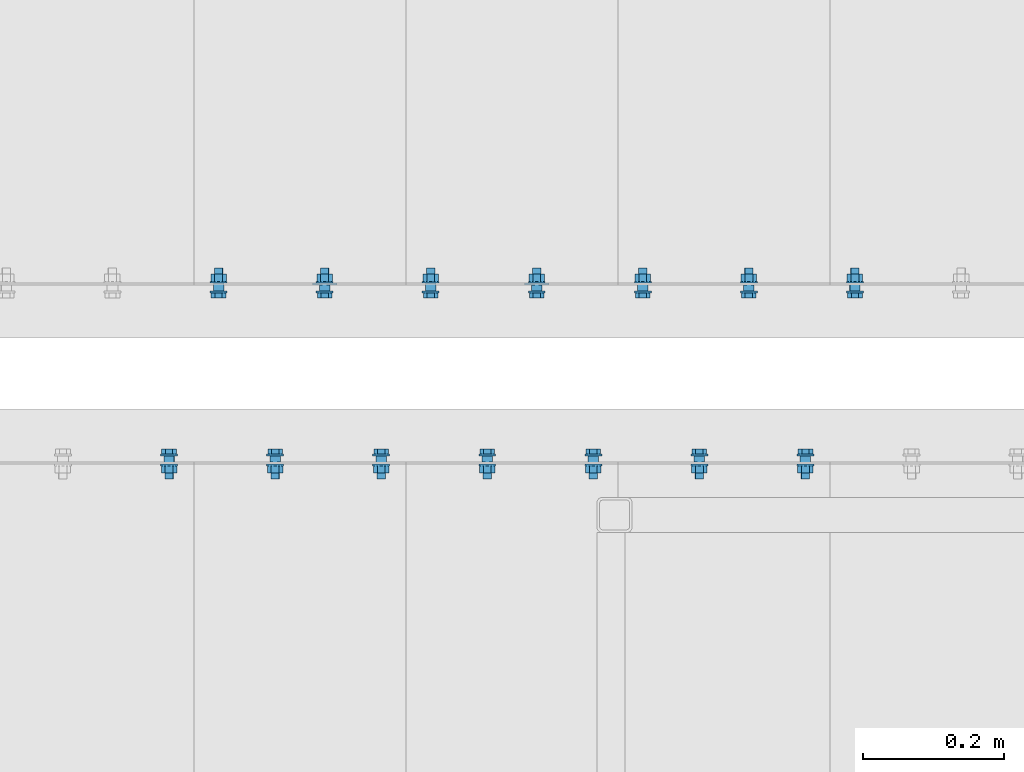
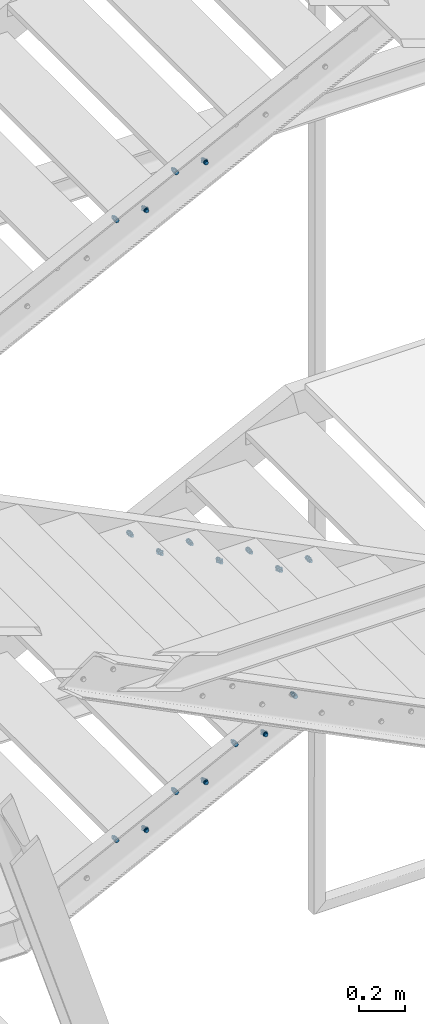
# One storey, part 106 of 132: 18 mechanical fasteners, 10 elements without a shape of their own.
"""IFC2X3 building model written with IfcOpenShell, lengths in millimetres."""

from ifc_helpers import new_model, si_unit, frame, frame_2d, origin_with_axes, origin_2d_with_axis, place, context, subcontext, project, spatial, polyline, circle_curve, parameter, trimmed, segment, composite_curve, circle, outline, extrude, source, transform, mapped, material, type_object, element, aggregate, save


model = new_model("IFC2X3")

# Units and contexts
model_context = context("Model", 3, precision=1e-05, world=origin_with_axes())
body_context = subcontext(model_context, "Body", "Model", "MODEL_VIEW")
ifc_project = project(units=[si_unit("LENGTHUNIT", "METRE", prefix="MILLI"), si_unit("AREAUNIT", "SQUARE_METRE"), si_unit("VOLUMEUNIT", "CUBIC_METRE"), si_unit("MASSUNIT", "GRAM", prefix="KILO"), si_unit("TIMEUNIT", "SECOND"), si_unit("PLANEANGLEUNIT", "RADIAN"), si_unit("SOLIDANGLEUNIT", "STERADIAN"), si_unit("THERMODYNAMICTEMPERATUREUNIT", "DEGREE_CELSIUS"), si_unit("LUMINOUSINTENSITYUNIT", "LUMEN")], contexts=[model_context])

# Site, building, storey
site_placement = place(None, origin_with_axes())
site = spatial("IfcSite", under=ifc_project, at=site_placement, Name="Budowa", CompositionType="ELEMENT")
building_placement = place(site_placement, origin_with_axes())
building = spatial("IfcBuilding", under=site, at=building_placement, Name="Undefined", CompositionType="ELEMENT")
storey_placement = place(building_placement, origin_with_axes())
storey = spatial("IfcBuildingStorey", under=building, at=storey_placement, Name="Undefined", CompositionType="ELEMENT", Elevation=0.0)

# Assembly, mechanical fastener
assembly_1_placement = place(storey_placement, origin_with_axes())
assembly_1 = element("IfcElementAssembly", 1, at=assembly_1_placement, inside=storey, Name="Steel Assembly", AssemblyPlace="NOTDEFINED", PredefinedType="RIGID_FRAME")
ifc_material = material(Name="Undefined")
discrete_accessory_type = type_object("IfcDiscreteAccessoryType", Name="Bolt assembly")
shared_shape_1 = source(origin_with_axes(), body_context, "Body", "SweptSolid", [
    extrude(circle(Radius=7.5, at=origin_2d_with_axis()), frame((0.0, -8.40000000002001, 0.0), z_axis=(0.0, 1.0, 0.0), x_axis=(1.0, 0.0, 0.0)), (0.0, 0.0, 1.0), 8.5),
    extrude(circle(Radius=7.5, at=origin_2d_with_axis()), frame((0.0, -0.1, 0.0), z_axis=(0.0, 1.0, 0.0), x_axis=(1.0, 0.0, 0.0)), (0.0, 0.0, 1.0), 3.1),
    extrude(outline(polyline([(10.39230484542, 0.0), (5.19615242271, 9.00000000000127), (-5.19615242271, 9.00000000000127), (-10.39230484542, 0.0), (-5.19615242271, -9.00000000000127), (5.19615242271, -9.00000000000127), (10.39230484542, 0.0)])), frame((0.0, -18.50000000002, 0.0), z_axis=(0.0, 1.0, 0.0), x_axis=(1.0, 0.0, 0.0)), (0.0, 0.0, 1.0), 7.5),
    extrude(circle(Radius=6.0, at=origin_2d_with_axis()), frame((0.0, -11.00000000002, 0.0), z_axis=(0.0, 1.0, 0.0), x_axis=(1.0, 0.0, 0.0)), (0.0, 0.0, 1.0), 35.0),
    extrude(circle(Radius=12.0, at=origin_2d_with_axis()), frame((0.0, -11.00000000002, 0.0), z_axis=(0.0, 1.0, 0.0), x_axis=(1.0, 0.0, 0.0)), (0.0, 0.0, 1.0), 2.5),
    extrude(circle(Radius=12.0, at=origin_2d_with_axis()), frame((0.0, 3.0, 0.0), z_axis=(0.0, 1.0, 0.0), x_axis=(1.0, 0.0, 0.0)), (0.0, 0.0, 1.0), 2.5),
    extrude(outline(polyline([(10.96965511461, 0.0), (5.484827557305, 9.50000000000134), (-5.484827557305, 9.50000000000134), (-10.96965511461, 0.0), (-5.484827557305, -9.50000000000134), (5.484827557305, -9.50000000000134), (10.96965511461, 0.0)])), frame((0.0, 5.5, 0.0), z_axis=(0.0, 1.0, 0.0), x_axis=(1.0, 0.0, 0.0)), (0.0, 0.0, 1.0), 10.0),
])
mechanical_fastener_1_placement = place(assembly_1_placement, frame((-2020.00000008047, 9525.0000000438, 6649.99999999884), z_axis=(0.0, 0.0, -1.0), x_axis=(-1.0, 0.0, 0.0)))
mechanical_fastener_1 = element("IfcMechanicalFastener", 2, at=mechanical_fastener_1_placement, type_object=discrete_accessory_type, material=ifc_material, Name="Bolt assembly", NominalDiameter=12.0, NominalLength=35.0, context=body_context, shape_type="MappedRepresentation", body=[
    mapped(shared_shape_1, transform((265.0, 0.0, 25.0))),
])

assembly_2_placement = place(storey_placement, origin_with_axes())
assembly_2 = element("IfcElementAssembly", 3, at=assembly_2_placement, inside=storey, Name="Steel Assembly", AssemblyPlace="NOTDEFINED", PredefinedType="RIGID_FRAME")
mechanical_fastener_2_placement = place(assembly_2_placement, frame((-2320.00000008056, 9525.0000000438, 6499.99999999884), z_axis=(0.0, 0.0, -1.0), x_axis=(-1.0, 0.0, 0.0)))
mechanical_fastener_2 = element("IfcMechanicalFastener", 4, at=mechanical_fastener_2_placement, type_object=discrete_accessory_type, material=ifc_material, Name="Bolt assembly", NominalDiameter=12.0, NominalLength=35.0, context=body_context, shape_type="MappedRepresentation", body=[
    mapped(shared_shape_1, transform((265.0, 0.0, 25.0))),
])

assembly_3_placement = place(storey_placement, origin_with_axes())
assembly_3 = element("IfcElementAssembly", 5, at=assembly_3_placement, inside=storey, Name="Steel Assembly", AssemblyPlace="NOTDEFINED", PredefinedType="RIGID_FRAME")
mechanical_fastener_3_placement = place(assembly_3_placement, frame((-2920.00000007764, 9275.00000004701, 4999.99999999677), z_axis=(0.0, 0.0, -1.0), x_axis=(1.0, 0.0, 0.0)))
mechanical_fastener_3 = element("IfcMechanicalFastener", 6, at=mechanical_fastener_3_placement, type_object=discrete_accessory_type, material=ifc_material, Name="Bolt assembly", NominalDiameter=12.0, NominalLength=35.0, context=body_context, shape_type="MappedRepresentation", body=[
    mapped(shared_shape_1, transform((265.0, 0.0, 25.0))),
])
aggregate(assembly_3, [mechanical_fastener_3])

assembly_4_placement = place(storey_placement, origin_with_axes())
assembly_4 = element("IfcElementAssembly", 7, at=assembly_4_placement, inside=storey, Name="Steel Assembly", AssemblyPlace="NOTDEFINED", PredefinedType="RIGID_FRAME")
mechanical_fastener_4_placement = place(assembly_4_placement, frame((-2620.00000007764, 9275.00000004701, 4849.99999999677), z_axis=(0.0, 0.0, -1.0), x_axis=(1.0, 0.0, 0.0)))
mechanical_fastener_4 = element("IfcMechanicalFastener", 8, at=mechanical_fastener_4_placement, type_object=discrete_accessory_type, material=ifc_material, Name="Bolt assembly", NominalDiameter=12.0, NominalLength=35.0, context=body_context, shape_type="MappedRepresentation", body=[
    mapped(shared_shape_1, transform((265.0, 0.0, 25.0))),
])

assembly_5_placement = place(storey_placement, origin_with_axes())
assembly_5 = element("IfcElementAssembly", 9, at=assembly_5_placement, inside=storey, Name="Steel Assembly", AssemblyPlace="NOTDEFINED", PredefinedType="RIGID_FRAME")
mechanical_fastener_5_placement = place(assembly_5_placement, frame((-2320.00000007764, 9275.00000004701, 4699.99999999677), z_axis=(0.0, 0.0, -1.0), x_axis=(1.0, 0.0, 0.0)))
mechanical_fastener_5 = element("IfcMechanicalFastener", 10, at=mechanical_fastener_5_placement, type_object=discrete_accessory_type, material=ifc_material, Name="Bolt assembly", NominalDiameter=12.0, NominalLength=35.0, context=body_context, shape_type="MappedRepresentation", body=[
    mapped(shared_shape_1, transform((265.0, 0.0, 25.0))),
])

assembly_6_placement = place(storey_placement, origin_with_axes())
assembly_6 = element("IfcElementAssembly", 11, at=assembly_6_placement, inside=storey, Name="Steel Assembly", AssemblyPlace="NOTDEFINED", PredefinedType="RIGID_FRAME")
mechanical_fastener_6_placement = place(assembly_6_placement, frame((-2020.00000007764, 9275.00000004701, 4549.99999999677), z_axis=(0.0, 0.0, -1.0), x_axis=(1.0, 0.0, 0.0)))
mechanical_fastener_6 = element("IfcMechanicalFastener", 12, at=mechanical_fastener_6_placement, type_object=discrete_accessory_type, material=ifc_material, Name="Bolt assembly", NominalDiameter=12.0, NominalLength=35.0, context=body_context, shape_type="MappedRepresentation", body=[
    mapped(shared_shape_1, transform((265.0, 0.0, 25.0))),
])

assembly_7_placement = place(storey_placement, origin_with_axes())
assembly_7 = element("IfcElementAssembly", 13, at=assembly_7_placement, inside=storey, Name="Steel Assembly", AssemblyPlace="NOTDEFINED", PredefinedType="RIGID_FRAME")
mechanical_fastener_7_placement = place(assembly_7_placement, frame((-1420.00000008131, 9525.00000004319, 3649.99999999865), z_axis=(0.0, 0.0, -1.0), x_axis=(-1.0, 0.0, 0.0)))
mechanical_fastener_7 = element("IfcMechanicalFastener", 14, at=mechanical_fastener_7_placement, type_object=discrete_accessory_type, material=ifc_material, Name="Bolt assembly", NominalDiameter=12.0, NominalLength=35.0, context=body_context, shape_type="MappedRepresentation", body=[
    mapped(shared_shape_1, transform((265.0, 0.0, 25.0))),
])
aggregate(assembly_7, [mechanical_fastener_7])

assembly_8_placement = place(storey_placement, origin_with_axes())
assembly_8 = element("IfcElementAssembly", 15, at=assembly_8_placement, inside=storey, Name="Steel Assembly", AssemblyPlace="NOTDEFINED", PredefinedType="RIGID_FRAME")
mechanical_fastener_8_placement = place(assembly_8_placement, frame((-1720.00000008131, 9525.0000000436, 3499.99999999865), z_axis=(0.0, 0.0, -1.0), x_axis=(-1.0, 0.0, 0.0)))
mechanical_fastener_8 = element("IfcMechanicalFastener", 16, at=mechanical_fastener_8_placement, type_object=discrete_accessory_type, material=ifc_material, Name="Bolt assembly", NominalDiameter=12.0, NominalLength=35.0, context=body_context, shape_type="MappedRepresentation", body=[
    mapped(shared_shape_1, transform((265.0, 0.0, 25.0))),
])

assembly_9_placement = place(storey_placement, origin_with_axes())
assembly_9 = element("IfcElementAssembly", 17, at=assembly_9_placement, inside=storey, Name="Steel Assembly", AssemblyPlace="NOTDEFINED", PredefinedType="RIGID_FRAME")
mechanical_fastener_9_placement = place(assembly_9_placement, frame((-2020.00000008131, 9525.00000004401, 3349.99999999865), z_axis=(0.0, 0.0, -1.0), x_axis=(-1.0, 0.0, 0.0)))
mechanical_fastener_9 = element("IfcMechanicalFastener", 18, at=mechanical_fastener_9_placement, type_object=discrete_accessory_type, material=ifc_material, Name="Bolt assembly", NominalDiameter=12.0, NominalLength=35.0, context=body_context, shape_type="MappedRepresentation", body=[
    mapped(shared_shape_1, transform((265.0, 0.0, 25.0))),
])

assembly_10_placement = place(storey_placement, origin_with_axes())
assembly_10 = element("IfcElementAssembly", 19, at=assembly_10_placement, inside=storey, Name="Steel Assembly", AssemblyPlace="NOTDEFINED", PredefinedType="RIGID_FRAME")
mechanical_fastener_10_placement = place(assembly_10_placement, frame((-2320.00000008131, 9525.00000004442, 3199.99999999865), z_axis=(0.0, 0.0, -1.0), x_axis=(-1.0, 0.0, 0.0)))
mechanical_fastener_10 = element("IfcMechanicalFastener", 20, at=mechanical_fastener_10_placement, type_object=discrete_accessory_type, material=ifc_material, Name="Bolt assembly", NominalDiameter=12.0, NominalLength=35.0, context=body_context, shape_type="MappedRepresentation", body=[
    mapped(shared_shape_1, transform((265.0, 0.0, 25.0))),
])

# Mechanical fastener
shared_shape_2 = source(origin_with_axes(), body_context, "Body", "SweptSolid", [
    extrude(circle(Radius=7.5, at=origin_2d_with_axis()), frame((0.0, -8.40000000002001, 0.0), z_axis=(0.0, 1.0, 0.0), x_axis=(1.0, 0.0, 0.0)), (0.0, 0.0, 1.0), 8.5),
    extrude(outline(composite_curve([segment(polyline([(-10.0, 7.5), (10.0, 7.5)]), True, "CONTINUOUS"), segment(trimmed(circle_curve(frame_2d((10.0, 0.0), x_axis=(0.0, 1.0)), 7.5), [parameter(0.0)], [parameter(3.14159265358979)], False, "PARAMETER"), True, "CONTINUOUS"), segment(polyline([(10.0, -7.5), (-10.0, -7.5)]), True, "CONTINUOUS"), segment(trimmed(circle_curve(frame_2d((-10.0, 0.0), x_axis=(0.0, -1.0)), 7.5), [parameter(0.0)], [parameter(3.14159265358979)], False, "PARAMETER"), True, "DISCONTINUOUS")], self_intersect=False)), frame((0.0, -0.1, 0.0), z_axis=(0.0, 1.0, 0.0), x_axis=(1.0, 0.0, 0.0)), (0.0, 0.0, 1.0), 3.1),
    extrude(outline(polyline([(10.39230484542, 0.0), (5.19615242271, 9.00000000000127), (-5.19615242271, 9.00000000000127), (-10.39230484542, 0.0), (-5.19615242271, -9.00000000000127), (5.19615242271, -9.00000000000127), (10.39230484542, 0.0)])), frame((0.0, -18.50000000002, 0.0), z_axis=(0.0, 1.0, 0.0), x_axis=(1.0, 0.0, 0.0)), (0.0, 0.0, 1.0), 7.5),
    extrude(circle(Radius=6.0, at=origin_2d_with_axis()), frame((0.0, -11.00000000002, 0.0), z_axis=(0.0, 1.0, 0.0), x_axis=(1.0, 0.0, 0.0)), (0.0, 0.0, 1.0), 35.0),
    extrude(circle(Radius=12.0, at=origin_2d_with_axis()), frame((0.0, -11.00000000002, 0.0), z_axis=(0.0, 1.0, 0.0), x_axis=(1.0, 0.0, 0.0)), (0.0, 0.0, 1.0), 2.5),
    extrude(circle(Radius=12.0, at=origin_2d_with_axis()), frame((0.0, 3.0, 0.0), z_axis=(0.0, 1.0, 0.0), x_axis=(1.0, 0.0, 0.0)), (0.0, 0.0, 1.0), 2.5),
    extrude(outline(polyline([(10.96965511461, 0.0), (5.484827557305, 9.50000000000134), (-5.484827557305, 9.50000000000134), (-10.96965511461, 0.0), (-5.484827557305, -9.50000000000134), (5.484827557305, -9.50000000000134), (10.96965511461, 0.0)])), frame((0.0, 5.5, 0.0), z_axis=(0.0, 1.0, 0.0), x_axis=(1.0, 0.0, 0.0)), (0.0, 0.0, 1.0), 10.0),
])
mechanical_fastener_11_placement = place(assembly_1_placement, frame((-2020.00000008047, 9525.0000000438, 6649.99999999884), z_axis=(0.0, 0.0, -1.0), x_axis=(-1.0, 0.0, 0.0)))
mechanical_fastener_11 = element("IfcMechanicalFastener", 21, at=mechanical_fastener_11_placement, type_object=discrete_accessory_type, material=ifc_material, Name="Bolt assembly", NominalDiameter=12.0, NominalLength=35.0, context=body_context, shape_type="MappedRepresentation", body=[
    mapped(shared_shape_2, transform((115.0, 0.0, 25.0))),
])

aggregate(assembly_1, [mechanical_fastener_11, mechanical_fastener_1])

shared_shape_3 = source(origin_with_axes(), body_context, "Body", "SweptSolid", [
    extrude(circle(Radius=7.5, at=origin_2d_with_axis()), frame((0.0, -8.40000000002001, 0.0), z_axis=(0.0, 1.0, 0.0), x_axis=(1.0, 0.0, 0.0)), (0.0, 0.0, 1.0), 8.5),
    extrude(outline(composite_curve([segment(polyline([(-10.0, 7.5), (10.0, 7.5)]), True, "CONTINUOUS"), segment(trimmed(circle_curve(frame_2d((10.0, 0.0), x_axis=(0.0, 1.0)), 7.5), [parameter(0.0)], [parameter(3.14159265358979)], False, "PARAMETER"), True, "CONTINUOUS"), segment(polyline([(10.0, -7.5), (-10.0, -7.5)]), True, "CONTINUOUS"), segment(trimmed(circle_curve(frame_2d((-10.0, 0.0), x_axis=(0.0, -1.0)), 7.5), [parameter(0.0)], [parameter(3.14159265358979)], False, "PARAMETER"), True, "DISCONTINUOUS")], self_intersect=False)), frame((0.0, -0.1, 0.0), z_axis=(0.0, 1.0, 0.0), x_axis=(1.0, 0.0, 0.0)), (0.0, 0.0, 1.0), 3.1),
    extrude(outline(polyline([(10.39230484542, 0.0), (5.19615242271, 9.00000000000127), (-5.19615242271, 9.00000000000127), (-10.39230484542, 0.0), (-5.19615242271, -9.00000000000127), (5.19615242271, -9.00000000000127), (10.39230484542, 0.0)])), frame((0.0, -18.50000000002, 0.0), z_axis=(0.0, 1.0, 0.0), x_axis=(1.0, 0.0, 0.0)), (0.0, 0.0, 1.0), 7.5),
    extrude(circle(Radius=6.0, at=origin_2d_with_axis()), frame((0.0, -11.00000000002, 0.0), z_axis=(0.0, 1.0, 0.0), x_axis=(1.0, 0.0, 0.0)), (0.0, 0.0, 1.0), 35.0),
    extrude(circle(Radius=12.0, at=origin_2d_with_axis()), frame((0.0, -11.00000000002, 0.0), z_axis=(0.0, 1.0, 0.0), x_axis=(1.0, 0.0, 0.0)), (0.0, 0.0, 1.0), 2.5),
    extrude(circle(Radius=12.0, at=origin_2d_with_axis()), frame((0.0, 3.0, 0.0), z_axis=(0.0, 1.0, 0.0), x_axis=(1.0, 0.0, 0.0)), (0.0, 0.0, 1.0), 2.5),
    extrude(outline(polyline([(10.96965511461, 0.0), (5.484827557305, 9.50000000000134), (-5.484827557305, 9.50000000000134), (-10.96965511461, 0.0), (-5.484827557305, -9.50000000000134), (5.484827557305, -9.50000000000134), (10.96965511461, 0.0)])), frame((0.0, 5.5, 0.0), z_axis=(0.0, 1.0, 0.0), x_axis=(1.0, 0.0, 0.0)), (0.0, 0.0, 1.0), 10.0),
])
mechanical_fastener_12_placement = place(assembly_2_placement, frame((-2320.00000008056, 9525.0000000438, 6499.99999999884), z_axis=(0.0, 0.0, -1.0), x_axis=(-1.0, 0.0, 0.0)))
mechanical_fastener_12 = element("IfcMechanicalFastener", 22, at=mechanical_fastener_12_placement, type_object=discrete_accessory_type, material=ifc_material, Name="Bolt assembly", NominalDiameter=12.0, NominalLength=35.0, context=body_context, shape_type="MappedRepresentation", body=[
    mapped(shared_shape_3, transform((115.0, 0.0, 25.0))),
])

aggregate(assembly_2, [mechanical_fastener_12, mechanical_fastener_2])

shared_shape_4 = source(origin_with_axes(), body_context, "Body", "SweptSolid", [
    extrude(circle(Radius=7.5, at=origin_2d_with_axis()), frame((0.0, -8.40000000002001, 0.0), z_axis=(0.0, 1.0, 0.0), x_axis=(1.0, 0.0, 0.0)), (0.0, 0.0, 1.0), 8.5),
    extrude(outline(composite_curve([segment(polyline([(-10.0, 7.5), (10.0, 7.5)]), True, "CONTINUOUS"), segment(trimmed(circle_curve(frame_2d((10.0, 0.0), x_axis=(0.0, 1.0)), 7.5), [parameter(0.0)], [parameter(3.14159265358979)], False, "PARAMETER"), True, "CONTINUOUS"), segment(polyline([(10.0, -7.5), (-10.0, -7.5)]), True, "CONTINUOUS"), segment(trimmed(circle_curve(frame_2d((-10.0, 0.0), x_axis=(0.0, -1.0)), 7.5), [parameter(0.0)], [parameter(3.14159265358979)], False, "PARAMETER"), True, "DISCONTINUOUS")], self_intersect=False)), frame((0.0, -0.1, 0.0), z_axis=(0.0, 1.0, 0.0), x_axis=(1.0, 0.0, 0.0)), (0.0, 0.0, 1.0), 3.1),
    extrude(outline(polyline([(10.39230484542, 0.0), (5.19615242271, 9.00000000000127), (-5.19615242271, 9.00000000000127), (-10.39230484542, 0.0), (-5.19615242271, -9.00000000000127), (5.19615242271, -9.00000000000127), (10.39230484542, 0.0)])), frame((0.0, -18.50000000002, 0.0), z_axis=(0.0, 1.0, 0.0), x_axis=(1.0, 0.0, 0.0)), (0.0, 0.0, 1.0), 7.5),
    extrude(circle(Radius=6.0, at=origin_2d_with_axis()), frame((0.0, -11.00000000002, 0.0), z_axis=(0.0, 1.0, 0.0), x_axis=(1.0, 0.0, 0.0)), (0.0, 0.0, 1.0), 35.0),
    extrude(circle(Radius=12.0, at=origin_2d_with_axis()), frame((0.0, -11.00000000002, 0.0), z_axis=(0.0, 1.0, 0.0), x_axis=(1.0, 0.0, 0.0)), (0.0, 0.0, 1.0), 2.5),
    extrude(circle(Radius=12.0, at=origin_2d_with_axis()), frame((0.0, 3.0, 0.0), z_axis=(0.0, 1.0, 0.0), x_axis=(1.0, 0.0, 0.0)), (0.0, 0.0, 1.0), 2.5),
    extrude(outline(polyline([(10.96965511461, 0.0), (5.484827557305, 9.50000000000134), (-5.484827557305, 9.50000000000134), (-10.96965511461, 0.0), (-5.484827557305, -9.50000000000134), (5.484827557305, -9.50000000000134), (10.96965511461, 0.0)])), frame((0.0, 5.5, 0.0), z_axis=(0.0, 1.0, 0.0), x_axis=(1.0, 0.0, 0.0)), (0.0, 0.0, 1.0), 10.0),
])
mechanical_fastener_13_placement = place(assembly_4_placement, frame((-2620.00000007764, 9275.00000004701, 4849.99999999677), z_axis=(0.0, 0.0, -1.0), x_axis=(1.0, 0.0, 0.0)))
mechanical_fastener_13 = element("IfcMechanicalFastener", 23, at=mechanical_fastener_13_placement, type_object=discrete_accessory_type, material=ifc_material, Name="Bolt assembly", NominalDiameter=12.0, NominalLength=35.0, context=body_context, shape_type="MappedRepresentation", body=[
    mapped(shared_shape_4, transform((115.0, 0.0, 25.0))),
])

aggregate(assembly_4, [mechanical_fastener_13, mechanical_fastener_4])

shared_shape_5 = source(origin_with_axes(), body_context, "Body", "SweptSolid", [
    extrude(circle(Radius=7.5, at=origin_2d_with_axis()), frame((0.0, -8.40000000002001, 0.0), z_axis=(0.0, 1.0, 0.0), x_axis=(1.0, 0.0, 0.0)), (0.0, 0.0, 1.0), 8.5),
    extrude(outline(composite_curve([segment(polyline([(-10.0, 7.5), (10.0, 7.5)]), True, "CONTINUOUS"), segment(trimmed(circle_curve(frame_2d((10.0, 0.0), x_axis=(0.0, 1.0)), 7.5), [parameter(0.0)], [parameter(3.14159265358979)], False, "PARAMETER"), True, "CONTINUOUS"), segment(polyline([(10.0, -7.5), (-10.0, -7.5)]), True, "CONTINUOUS"), segment(trimmed(circle_curve(frame_2d((-10.0, 0.0), x_axis=(0.0, -1.0)), 7.5), [parameter(0.0)], [parameter(3.14159265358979)], False, "PARAMETER"), True, "DISCONTINUOUS")], self_intersect=False)), frame((0.0, -0.1, 0.0), z_axis=(0.0, 1.0, 0.0), x_axis=(1.0, 0.0, 0.0)), (0.0, 0.0, 1.0), 3.1),
    extrude(outline(polyline([(10.39230484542, 0.0), (5.19615242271, 9.00000000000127), (-5.19615242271, 9.00000000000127), (-10.39230484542, 0.0), (-5.19615242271, -9.00000000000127), (5.19615242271, -9.00000000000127), (10.39230484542, 0.0)])), frame((0.0, -18.50000000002, 0.0), z_axis=(0.0, 1.0, 0.0), x_axis=(1.0, 0.0, 0.0)), (0.0, 0.0, 1.0), 7.5),
    extrude(circle(Radius=6.0, at=origin_2d_with_axis()), frame((0.0, -11.00000000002, 0.0), z_axis=(0.0, 1.0, 0.0), x_axis=(1.0, 0.0, 0.0)), (0.0, 0.0, 1.0), 35.0),
    extrude(circle(Radius=12.0, at=origin_2d_with_axis()), frame((0.0, -11.00000000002, 0.0), z_axis=(0.0, 1.0, 0.0), x_axis=(1.0, 0.0, 0.0)), (0.0, 0.0, 1.0), 2.5),
    extrude(circle(Radius=12.0, at=origin_2d_with_axis()), frame((0.0, 3.0, 0.0), z_axis=(0.0, 1.0, 0.0), x_axis=(1.0, 0.0, 0.0)), (0.0, 0.0, 1.0), 2.5),
    extrude(outline(polyline([(10.96965511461, 0.0), (5.484827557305, 9.50000000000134), (-5.484827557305, 9.50000000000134), (-10.96965511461, 0.0), (-5.484827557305, -9.50000000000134), (5.484827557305, -9.50000000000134), (10.96965511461, 0.0)])), frame((0.0, 5.5, 0.0), z_axis=(0.0, 1.0, 0.0), x_axis=(1.0, 0.0, 0.0)), (0.0, 0.0, 1.0), 10.0),
])
mechanical_fastener_14_placement = place(assembly_5_placement, frame((-2320.00000007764, 9275.00000004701, 4699.99999999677), z_axis=(0.0, 0.0, -1.0), x_axis=(1.0, 0.0, 0.0)))
mechanical_fastener_14 = element("IfcMechanicalFastener", 24, at=mechanical_fastener_14_placement, type_object=discrete_accessory_type, material=ifc_material, Name="Bolt assembly", NominalDiameter=12.0, NominalLength=35.0, context=body_context, shape_type="MappedRepresentation", body=[
    mapped(shared_shape_5, transform((115.0, 0.0, 25.0))),
])

aggregate(assembly_5, [mechanical_fastener_14, mechanical_fastener_5])

shared_shape_6 = source(origin_with_axes(), body_context, "Body", "SweptSolid", [
    extrude(circle(Radius=7.5, at=origin_2d_with_axis()), frame((0.0, -8.40000000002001, 0.0), z_axis=(0.0, 1.0, 0.0), x_axis=(1.0, 0.0, 0.0)), (0.0, 0.0, 1.0), 8.5),
    extrude(outline(composite_curve([segment(polyline([(-10.0, 7.5), (10.0, 7.5)]), True, "CONTINUOUS"), segment(trimmed(circle_curve(frame_2d((10.0, 0.0), x_axis=(0.0, 1.0)), 7.5), [parameter(0.0)], [parameter(3.14159265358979)], False, "PARAMETER"), True, "CONTINUOUS"), segment(polyline([(10.0, -7.5), (-10.0, -7.5)]), True, "CONTINUOUS"), segment(trimmed(circle_curve(frame_2d((-10.0, 0.0), x_axis=(0.0, -1.0)), 7.5), [parameter(0.0)], [parameter(3.14159265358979)], False, "PARAMETER"), True, "DISCONTINUOUS")], self_intersect=False)), frame((0.0, -0.1, 0.0), z_axis=(0.0, 1.0, 0.0), x_axis=(1.0, 0.0, 0.0)), (0.0, 0.0, 1.0), 3.1),
    extrude(outline(polyline([(10.39230484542, 0.0), (5.19615242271, 9.00000000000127), (-5.19615242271, 9.00000000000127), (-10.39230484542, 0.0), (-5.19615242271, -9.00000000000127), (5.19615242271, -9.00000000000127), (10.39230484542, 0.0)])), frame((0.0, -18.50000000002, 0.0), z_axis=(0.0, 1.0, 0.0), x_axis=(1.0, 0.0, 0.0)), (0.0, 0.0, 1.0), 7.5),
    extrude(circle(Radius=6.0, at=origin_2d_with_axis()), frame((0.0, -11.00000000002, 0.0), z_axis=(0.0, 1.0, 0.0), x_axis=(1.0, 0.0, 0.0)), (0.0, 0.0, 1.0), 35.0),
    extrude(circle(Radius=12.0, at=origin_2d_with_axis()), frame((0.0, -11.00000000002, 0.0), z_axis=(0.0, 1.0, 0.0), x_axis=(1.0, 0.0, 0.0)), (0.0, 0.0, 1.0), 2.5),
    extrude(circle(Radius=12.0, at=origin_2d_with_axis()), frame((0.0, 3.0, 0.0), z_axis=(0.0, 1.0, 0.0), x_axis=(1.0, 0.0, 0.0)), (0.0, 0.0, 1.0), 2.5),
    extrude(outline(polyline([(10.96965511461, 0.0), (5.484827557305, 9.50000000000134), (-5.484827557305, 9.50000000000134), (-10.96965511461, 0.0), (-5.484827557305, -9.50000000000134), (5.484827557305, -9.50000000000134), (10.96965511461, 0.0)])), frame((0.0, 5.5, 0.0), z_axis=(0.0, 1.0, 0.0), x_axis=(1.0, 0.0, 0.0)), (0.0, 0.0, 1.0), 10.0),
])
mechanical_fastener_15_placement = place(assembly_6_placement, frame((-2020.00000007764, 9275.00000004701, 4549.99999999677), z_axis=(0.0, 0.0, -1.0), x_axis=(1.0, 0.0, 0.0)))
mechanical_fastener_15 = element("IfcMechanicalFastener", 25, at=mechanical_fastener_15_placement, type_object=discrete_accessory_type, material=ifc_material, Name="Bolt assembly", NominalDiameter=12.0, NominalLength=35.0, context=body_context, shape_type="MappedRepresentation", body=[
    mapped(shared_shape_6, transform((115.0, 0.0, 25.0))),
])

aggregate(assembly_6, [mechanical_fastener_15, mechanical_fastener_6])

shared_shape_7 = source(origin_with_axes(), body_context, "Body", "SweptSolid", [
    extrude(circle(Radius=7.5, at=origin_2d_with_axis()), frame((0.0, -8.40000000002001, 0.0), z_axis=(0.0, 1.0, 0.0), x_axis=(1.0, 0.0, 0.0)), (0.0, 0.0, 1.0), 8.5),
    extrude(outline(composite_curve([segment(polyline([(-10.0, 7.5), (10.0, 7.5)]), True, "CONTINUOUS"), segment(trimmed(circle_curve(frame_2d((10.0, 0.0), x_axis=(0.0, 1.0)), 7.5), [parameter(0.0)], [parameter(3.14159265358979)], False, "PARAMETER"), True, "CONTINUOUS"), segment(polyline([(10.0, -7.5), (-10.0, -7.5)]), True, "CONTINUOUS"), segment(trimmed(circle_curve(frame_2d((-10.0, 0.0), x_axis=(0.0, -1.0)), 7.5), [parameter(0.0)], [parameter(3.14159265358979)], False, "PARAMETER"), True, "DISCONTINUOUS")], self_intersect=False)), frame((0.0, -0.1, 0.0), z_axis=(0.0, 1.0, 0.0), x_axis=(1.0, 0.0, 0.0)), (0.0, 0.0, 1.0), 3.1),
    extrude(outline(polyline([(10.39230484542, 0.0), (5.19615242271, 9.00000000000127), (-5.19615242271, 9.00000000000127), (-10.39230484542, 0.0), (-5.19615242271, -9.00000000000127), (5.19615242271, -9.00000000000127), (10.39230484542, 0.0)])), frame((0.0, -18.50000000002, 0.0), z_axis=(0.0, 1.0, 0.0), x_axis=(1.0, 0.0, 0.0)), (0.0, 0.0, 1.0), 7.5),
    extrude(circle(Radius=6.0, at=origin_2d_with_axis()), frame((0.0, -11.00000000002, 0.0), z_axis=(0.0, 1.0, 0.0), x_axis=(1.0, 0.0, 0.0)), (0.0, 0.0, 1.0), 35.0),
    extrude(circle(Radius=12.0, at=origin_2d_with_axis()), frame((0.0, -11.00000000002, 0.0), z_axis=(0.0, 1.0, 0.0), x_axis=(1.0, 0.0, 0.0)), (0.0, 0.0, 1.0), 2.5),
    extrude(circle(Radius=12.0, at=origin_2d_with_axis()), frame((0.0, 3.0, 0.0), z_axis=(0.0, 1.0, 0.0), x_axis=(1.0, 0.0, 0.0)), (0.0, 0.0, 1.0), 2.5),
    extrude(outline(polyline([(10.96965511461, 0.0), (5.484827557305, 9.50000000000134), (-5.484827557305, 9.50000000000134), (-10.96965511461, 0.0), (-5.484827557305, -9.50000000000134), (5.484827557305, -9.50000000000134), (10.96965511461, 0.0)])), frame((0.0, 5.5, 0.0), z_axis=(0.0, 1.0, 0.0), x_axis=(1.0, 0.0, 0.0)), (0.0, 0.0, 1.0), 10.0),
])
mechanical_fastener_16_placement = place(assembly_8_placement, frame((-1720.00000008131, 9525.0000000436, 3499.99999999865), z_axis=(0.0, 0.0, -1.0), x_axis=(-1.0, 0.0, 0.0)))
mechanical_fastener_16 = element("IfcMechanicalFastener", 26, at=mechanical_fastener_16_placement, type_object=discrete_accessory_type, material=ifc_material, Name="Bolt assembly", NominalDiameter=12.0, NominalLength=35.0, context=body_context, shape_type="MappedRepresentation", body=[
    mapped(shared_shape_7, transform((115.0, 0.0, 25.0))),
])

aggregate(assembly_8, [mechanical_fastener_16, mechanical_fastener_8])

shared_shape_8 = source(origin_with_axes(), body_context, "Body", "SweptSolid", [
    extrude(circle(Radius=7.5, at=origin_2d_with_axis()), frame((0.0, -8.40000000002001, 0.0), z_axis=(0.0, 1.0, 0.0), x_axis=(1.0, 0.0, 0.0)), (0.0, 0.0, 1.0), 8.5),
    extrude(outline(composite_curve([segment(polyline([(-10.0, 7.5), (10.0, 7.5)]), True, "CONTINUOUS"), segment(trimmed(circle_curve(frame_2d((10.0, 0.0), x_axis=(0.0, 1.0)), 7.5), [parameter(0.0)], [parameter(3.14159265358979)], False, "PARAMETER"), True, "CONTINUOUS"), segment(polyline([(10.0, -7.5), (-10.0, -7.5)]), True, "CONTINUOUS"), segment(trimmed(circle_curve(frame_2d((-10.0, 0.0), x_axis=(0.0, -1.0)), 7.5), [parameter(0.0)], [parameter(3.14159265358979)], False, "PARAMETER"), True, "DISCONTINUOUS")], self_intersect=False)), frame((0.0, -0.1, 0.0), z_axis=(0.0, 1.0, 0.0), x_axis=(1.0, 0.0, 0.0)), (0.0, 0.0, 1.0), 3.1),
    extrude(outline(polyline([(10.39230484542, 0.0), (5.19615242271, 9.00000000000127), (-5.19615242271, 9.00000000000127), (-10.39230484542, 0.0), (-5.19615242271, -9.00000000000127), (5.19615242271, -9.00000000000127), (10.39230484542, 0.0)])), frame((0.0, -18.50000000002, 0.0), z_axis=(0.0, 1.0, 0.0), x_axis=(1.0, 0.0, 0.0)), (0.0, 0.0, 1.0), 7.5),
    extrude(circle(Radius=6.0, at=origin_2d_with_axis()), frame((0.0, -11.00000000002, 0.0), z_axis=(0.0, 1.0, 0.0), x_axis=(1.0, 0.0, 0.0)), (0.0, 0.0, 1.0), 35.0),
    extrude(circle(Radius=12.0, at=origin_2d_with_axis()), frame((0.0, -11.00000000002, 0.0), z_axis=(0.0, 1.0, 0.0), x_axis=(1.0, 0.0, 0.0)), (0.0, 0.0, 1.0), 2.5),
    extrude(circle(Radius=12.0, at=origin_2d_with_axis()), frame((0.0, 3.0, 0.0), z_axis=(0.0, 1.0, 0.0), x_axis=(1.0, 0.0, 0.0)), (0.0, 0.0, 1.0), 2.5),
    extrude(outline(polyline([(10.96965511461, 0.0), (5.484827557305, 9.50000000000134), (-5.484827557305, 9.50000000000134), (-10.96965511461, 0.0), (-5.484827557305, -9.50000000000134), (5.484827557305, -9.50000000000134), (10.96965511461, 0.0)])), frame((0.0, 5.5, 0.0), z_axis=(0.0, 1.0, 0.0), x_axis=(1.0, 0.0, 0.0)), (0.0, 0.0, 1.0), 10.0),
])
mechanical_fastener_17_placement = place(assembly_9_placement, frame((-2020.00000008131, 9525.00000004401, 3349.99999999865), z_axis=(0.0, 0.0, -1.0), x_axis=(-1.0, 0.0, 0.0)))
mechanical_fastener_17 = element("IfcMechanicalFastener", 27, at=mechanical_fastener_17_placement, type_object=discrete_accessory_type, material=ifc_material, Name="Bolt assembly", NominalDiameter=12.0, NominalLength=35.0, context=body_context, shape_type="MappedRepresentation", body=[
    mapped(shared_shape_8, transform((115.0, 0.0, 25.0))),
])

aggregate(assembly_9, [mechanical_fastener_17, mechanical_fastener_9])

shared_shape_9 = source(origin_with_axes(), body_context, "Body", "SweptSolid", [
    extrude(circle(Radius=7.5, at=origin_2d_with_axis()), frame((0.0, -8.40000000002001, 0.0), z_axis=(0.0, 1.0, 0.0), x_axis=(1.0, 0.0, 0.0)), (0.0, 0.0, 1.0), 8.5),
    extrude(outline(composite_curve([segment(polyline([(-10.0, 7.5), (10.0, 7.5)]), True, "CONTINUOUS"), segment(trimmed(circle_curve(frame_2d((10.0, 0.0), x_axis=(0.0, 1.0)), 7.5), [parameter(0.0)], [parameter(3.14159265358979)], False, "PARAMETER"), True, "CONTINUOUS"), segment(polyline([(10.0, -7.5), (-10.0, -7.5)]), True, "CONTINUOUS"), segment(trimmed(circle_curve(frame_2d((-10.0, 0.0), x_axis=(0.0, -1.0)), 7.5), [parameter(0.0)], [parameter(3.14159265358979)], False, "PARAMETER"), True, "DISCONTINUOUS")], self_intersect=False)), frame((0.0, -0.1, 0.0), z_axis=(0.0, 1.0, 0.0), x_axis=(1.0, 0.0, 0.0)), (0.0, 0.0, 1.0), 3.1),
    extrude(outline(polyline([(10.39230484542, 0.0), (5.19615242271, 9.00000000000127), (-5.19615242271, 9.00000000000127), (-10.39230484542, 0.0), (-5.19615242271, -9.00000000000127), (5.19615242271, -9.00000000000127), (10.39230484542, 0.0)])), frame((0.0, -18.50000000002, 0.0), z_axis=(0.0, 1.0, 0.0), x_axis=(1.0, 0.0, 0.0)), (0.0, 0.0, 1.0), 7.5),
    extrude(circle(Radius=6.0, at=origin_2d_with_axis()), frame((0.0, -11.00000000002, 0.0), z_axis=(0.0, 1.0, 0.0), x_axis=(1.0, 0.0, 0.0)), (0.0, 0.0, 1.0), 35.0),
    extrude(circle(Radius=12.0, at=origin_2d_with_axis()), frame((0.0, -11.00000000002, 0.0), z_axis=(0.0, 1.0, 0.0), x_axis=(1.0, 0.0, 0.0)), (0.0, 0.0, 1.0), 2.5),
    extrude(circle(Radius=12.0, at=origin_2d_with_axis()), frame((0.0, 3.0, 0.0), z_axis=(0.0, 1.0, 0.0), x_axis=(1.0, 0.0, 0.0)), (0.0, 0.0, 1.0), 2.5),
    extrude(outline(polyline([(10.96965511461, 0.0), (5.484827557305, 9.50000000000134), (-5.484827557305, 9.50000000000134), (-10.96965511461, 0.0), (-5.484827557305, -9.50000000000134), (5.484827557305, -9.50000000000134), (10.96965511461, 0.0)])), frame((0.0, 5.5, 0.0), z_axis=(0.0, 1.0, 0.0), x_axis=(1.0, 0.0, 0.0)), (0.0, 0.0, 1.0), 10.0),
])
mechanical_fastener_18_placement = place(assembly_10_placement, frame((-2320.00000008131, 9525.00000004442, 3199.99999999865), z_axis=(0.0, 0.0, -1.0), x_axis=(-1.0, 0.0, 0.0)))
mechanical_fastener_18 = element("IfcMechanicalFastener", 28, at=mechanical_fastener_18_placement, type_object=discrete_accessory_type, material=ifc_material, Name="Bolt assembly", NominalDiameter=12.0, NominalLength=35.0, context=body_context, shape_type="MappedRepresentation", body=[
    mapped(shared_shape_9, transform((115.0, 0.0, 25.0))),
])

aggregate(assembly_10, [mechanical_fastener_18, mechanical_fastener_10])

save(model, "model.ifc")
